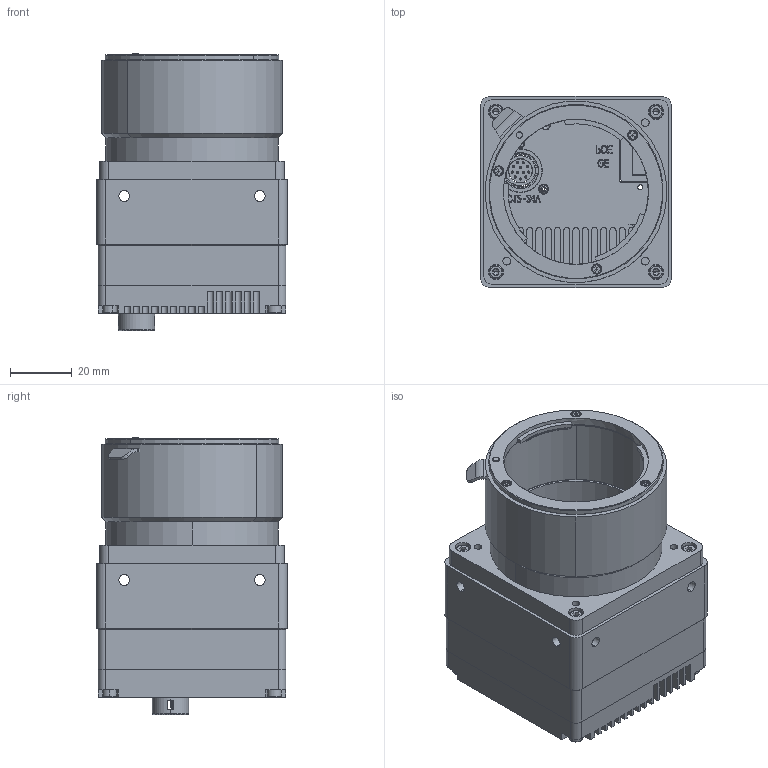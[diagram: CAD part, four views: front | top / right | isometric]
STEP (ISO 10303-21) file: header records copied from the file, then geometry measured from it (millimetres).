
FILE_DESCRIPTION (( 'STEP AP203' ), '1' );
FILE_NAME ('TS31MSGV-6M-A01-V1.2.0.STEP', '2022-08-04T09:58:47', ( '微软用户' ), ( '微软中国' ), 'SwSTEP 2.0', 'SolidWorks 2017', '' );
FILE_SCHEMA (( 'CONFIG_CONTROL_DESIGN' ));
Length unit declared in the file: millimetre
Products named in the file (1): TS31MSGV-6M-A01-V1.2.0
Bounding box: 62 x 62 x 89.99 mm (x, y, z)
Surface area: 41193.3 mm2 (no closed solid volume)
Topology: 0 solids, 73 shells, 666 faces, 2490 edges, 1869 vertices
Faces by surface type: plane 358, cylinder 205, cone 72, torus 16, bspline 14, sphere 1
Entity records: 27758 total; most frequent: CARTESIAN_POINT 6521, DIRECTION 4474, ORIENTED_EDGE 3913, EDGE_CURVE 2471, VERTEX_POINT 1867, LINE 1574, VECTOR 1574, AXIS2_PLACEMENT_3D 1450
